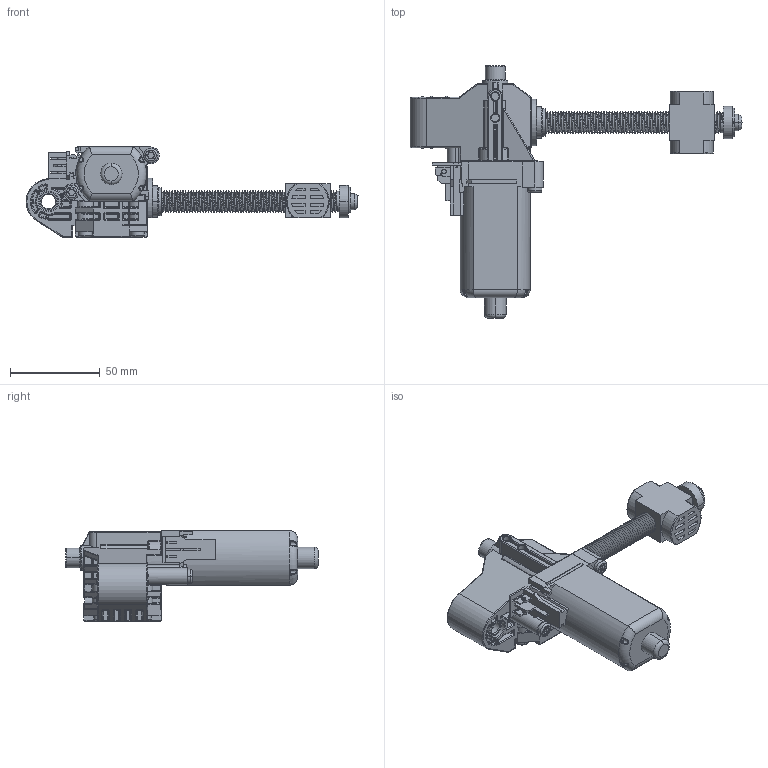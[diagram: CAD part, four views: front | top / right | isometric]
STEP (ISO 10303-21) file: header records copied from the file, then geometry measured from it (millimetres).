
FILE_DESCRIPTION((''),'2;1');
FILE_NAME('ASM0001_SW0001','2014-10-15T',('neh1cob'),(''),'PRO/ENGINEER BY PARAMETRIC TECHNOLOGY CORPORATION, 2011490','PRO/ENGINEER BY PARAMETRIC TECHNOLOGY CORPORATION, 2011490','');
FILE_SCHEMA(('AUTOMOTIVE_DESIGN_CC2 { 1 2 10303 214 -1 1 5 2 }'));
Length unit declared in the file: millimetre
Products named in the file (1): ASM0001_SW0001
Bounding box: 185 x 140.5 x 50.5 mm (x, y, z)
Volume: 190322 mm3; surface area: 48471.2 mm2
Topology: 2 solids, 2 shells, 2094 faces, 5078 edges, 3016 vertices
Faces by surface type: cylinder 860, plane 576, torus 274, bspline 206, sphere 176, cone 2
Entity records: 104043 total; most frequent: CARTESIAN_POINT 44671, ORIENTED_EDGE 10132, DIRECTION 10003, EDGE_CURVE 5066, AXIS2_PLACEMENT_3D 3855, VERTEX_POINT 3016, VECTOR 2293, LINE 2293
